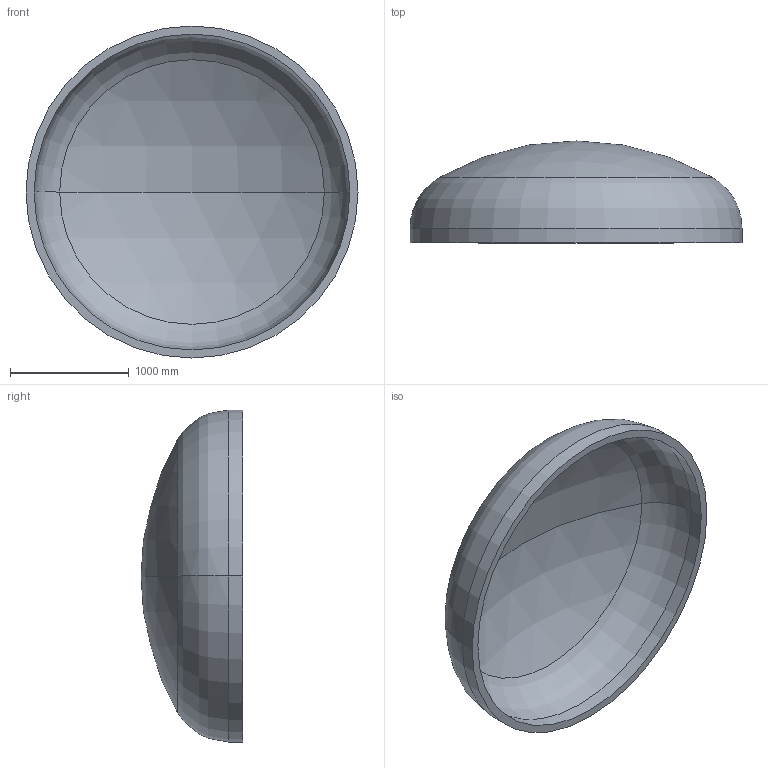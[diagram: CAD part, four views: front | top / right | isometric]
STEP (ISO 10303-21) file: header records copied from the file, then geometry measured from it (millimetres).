
FILE_DESCRIPTION (( 'STEP AP203' ), '1' );
FILE_NAME ('DIN 28013 Korbbogenform_-_Boden DIN 28013 - 2800 x 120 - I - s=68.step', '2016-07-01T17:08:47', ( '' ), ( '' ), 'SwSTEP 2.0', 'SolidWorks 2013', '' );
FILE_SCHEMA (( 'CONFIG_CONTROL_DESIGN' ));
Length unit declared in the file: millimetre
Products named in the file (1): DIN 28013 Korbbogenform_-_Boden DIN 28013 - 2800 x 120 - I - s=68
Bounding box: 2800 x 858.77 x 2800 mm (x, y, z)
Volume: 631442325.5 mm3; surface area: 19165144 mm2
Topology: 1 solids, 1 shells, 13 faces, 24 edges, 14 vertices
Faces by surface type: torus 4, cylinder 4, sphere 4, plane 1
Entity records: 407 total; most frequent: DIRECTION 72, CARTESIAN_POINT 52, ORIENTED_EDGE 48, AXIS2_PLACEMENT_3D 34, EDGE_CURVE 24, CIRCLE 20, EDGE_LOOP 14, VERTEX_POINT 14
